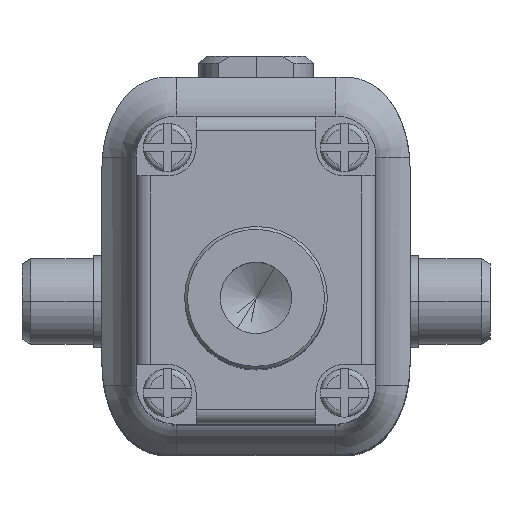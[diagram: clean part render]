
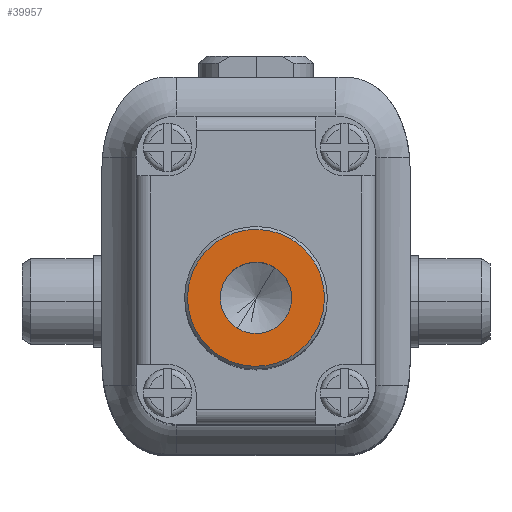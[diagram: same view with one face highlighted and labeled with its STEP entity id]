
A CAD part, top view. The second image highlights one B-rep face of the part: STEP entity #39957.
In plain terms, the highlighted planar face has unit normal (0, 0, 1) as drawn and (0, 0, -1) by its records, which use the part's own axes.
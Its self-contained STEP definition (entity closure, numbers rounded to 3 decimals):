
#223 = ORIENTED_EDGE ( 'NONE', *, *, #39160, .T. ) ;
#645 = DIRECTION ( 'NONE',  ( 0., 0., 1. ) ) ;
#1508 = CIRCLE ( 'NONE', #57524, 2.4 ) ;
#1664 = DIRECTION ( 'NONE',  ( 0., 0., -1. ) ) ;
#4053 = CARTESIAN_POINT ( 'NONE',  ( -1.25, 0., 0. ) ) ;
#4220 = VERTEX_POINT ( 'NONE', #4053 ) ;
#4915 = EDGE_LOOP ( 'NONE', ( #223, #19305 ) ) ;
#5025 = FACE_OUTER_BOUND ( 'NONE', #4915, .T. ) ;
#6004 = VERTEX_POINT ( 'NONE', #6463 ) ;
#6463 = CARTESIAN_POINT ( 'NONE',  ( -2.4, 0., 0. ) ) ;
#7673 = DIRECTION ( 'NONE',  ( 1., 0., 0. ) ) ;
#9751 = CIRCLE ( 'NONE', #37758, 1.25 ) ;
#9875 = AXIS2_PLACEMENT_3D ( 'NONE', #22522, #45346, #49424 ) ;
#10477 = VERTEX_POINT ( 'NONE', #13157 ) ;
#11051 = CARTESIAN_POINT ( 'NONE',  ( 2.4, 0., 0. ) ) ;
#13157 = CARTESIAN_POINT ( 'NONE',  ( 1.25, 0., 0. ) ) ;
#13158 = CARTESIAN_POINT ( 'NONE',  ( 0., 0., 0. ) ) ;
#13422 = EDGE_CURVE ( 'NONE', #6004, #21034, #46381, .T. ) ;
#17589 = CARTESIAN_POINT ( 'NONE',  ( 0., 0., 0. ) ) ;
#18869 = EDGE_CURVE ( 'NONE', #10477, #4220, #9751, .T. ) ;
#18897 = DIRECTION ( 'NONE',  ( -1., 0., 0. ) ) ;
#19305 = ORIENTED_EDGE ( 'NONE', *, *, #13422, .T. ) ;
#21034 = VERTEX_POINT ( 'NONE', #11051 ) ;
#22522 = CARTESIAN_POINT ( 'NONE',  ( 0., 0., 0. ) ) ;
#24283 = CARTESIAN_POINT ( 'NONE',  ( 0., 0., 0. ) ) ;
#24795 = EDGE_CURVE ( 'NONE', #4220, #10477, #43484, .T. ) ;
#24900 = AXIS2_PLACEMENT_3D ( 'NONE', #51817, #56496, #7673 ) ;
#26652 = PLANE ( 'NONE',  #50681 ) ;
#33356 = DIRECTION ( 'NONE',  ( 0., 0., -1. ) ) ;
#34391 = EDGE_LOOP ( 'NONE', ( #44350, #41954 ) ) ;
#37758 = AXIS2_PLACEMENT_3D ( 'NONE', #13158, #1664, #18897 ) ;
#39160 = EDGE_CURVE ( 'NONE', #21034, #6004, #1508, .T. ) ;
#39957 = ADVANCED_FACE ( 'NONE', ( #5025, #54130 ), #26652, .F. ) ;
#41954 = ORIENTED_EDGE ( 'NONE', *, *, #18869, .F. ) ;
#43484 = CIRCLE ( 'NONE', #9875, 1.25 ) ;
#44350 = ORIENTED_EDGE ( 'NONE', *, *, #24795, .F. ) ;
#45346 = DIRECTION ( 'NONE',  ( 0., 0., -1. ) ) ;
#46381 = CIRCLE ( 'NONE', #24900, 2.4 ) ;
#49424 = DIRECTION ( 'NONE',  ( -1., 0., 0. ) ) ;
#50681 = AXIS2_PLACEMENT_3D ( 'NONE', #17589, #645, #54425 ) ;
#50912 = DIRECTION ( 'NONE',  ( 1., 0., 0. ) ) ;
#51817 = CARTESIAN_POINT ( 'NONE',  ( 0., 0., 0. ) ) ;
#54130 = FACE_BOUND ( 'NONE', #34391, .T. ) ;
#54425 = DIRECTION ( 'NONE',  ( 1., 0., 0. ) ) ;
#56496 = DIRECTION ( 'NONE',  ( 0., 0., -1. ) ) ;
#57524 = AXIS2_PLACEMENT_3D ( 'NONE', #24283, #33356, #50912 ) ;
